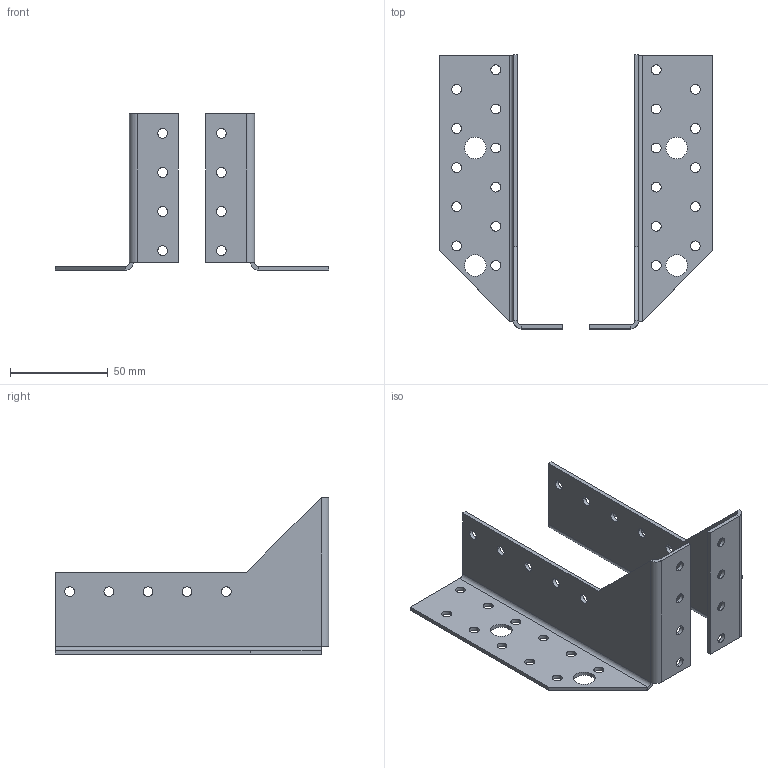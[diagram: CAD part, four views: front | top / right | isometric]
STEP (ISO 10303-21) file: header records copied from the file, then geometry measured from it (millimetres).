
FILE_DESCRIPTION (( 'STEP AP203' ), '1' );
FILE_NAME ('142.STEP', '2021-04-18T12:42:07', ( '' ), ( '' ), 'SwSTEP 2.0', 'SolidWorks 2013', '' );
FILE_SCHEMA (( 'CONFIG_CONTROL_DESIGN' ));
Length unit declared in the file: millimetre
Products named in the file (1): 142
Bounding box: 140 x 140 x 80 mm (x, y, z)
Volume: 48601 mm3; surface area: 52188.1 mm2
Topology: 2 solids, 2 shells, 134 faces, 358 edges, 228 vertices
Faces by surface type: cylinder 96, plane 38
Entity records: 4489 total; most frequent: DIRECTION 820, CARTESIAN_POINT 721, ORIENTED_EDGE 716, EDGE_CURVE 358, AXIS2_PLACEMENT_3D 327, VERTEX_POINT 228, EDGE_LOOP 222, CIRCLE 192
